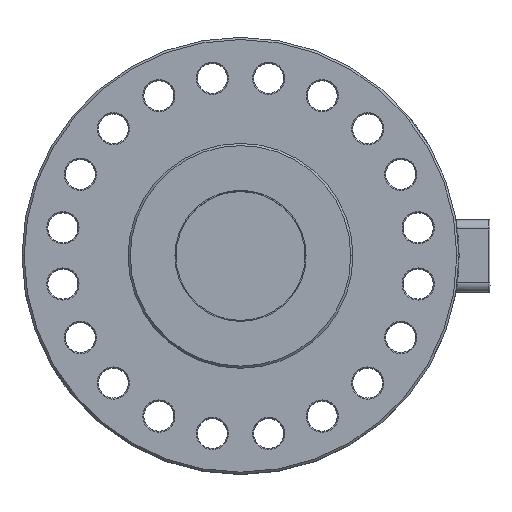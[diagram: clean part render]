
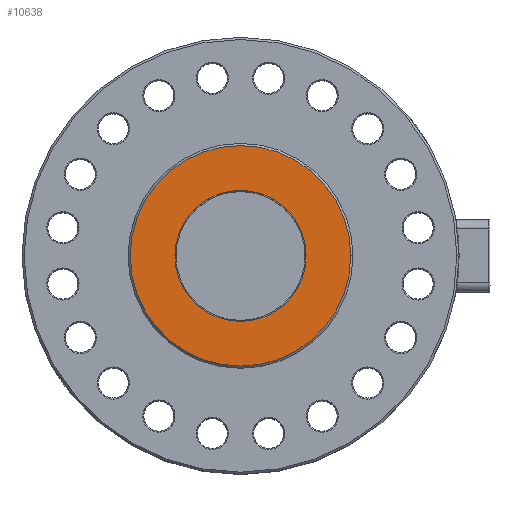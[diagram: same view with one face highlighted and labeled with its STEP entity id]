
A CAD part, top view. The second image highlights one B-rep face of the part: STEP entity #10638.
In plain terms, the highlighted planar face has unit normal (0, 0, 1).
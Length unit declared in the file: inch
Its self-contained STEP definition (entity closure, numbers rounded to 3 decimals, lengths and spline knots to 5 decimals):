
#399 = CARTESIAN_POINT ( 'NONE',  ( 0., 0., 0. ) ) ;
#437 = DIRECTION ( 'NONE',  ( 0., 0., 1. ) ) ;
#963 = CIRCLE ( 'NONE', #19289, 3.0275 ) ;
#1680 = AXIS2_PLACEMENT_3D ( 'NONE', #6330, #7847, #18267 ) ;
#1921 = DIRECTION ( 'NONE',  ( -1., 0., 0. ) ) ;
#1965 = AXIS2_PLACEMENT_3D ( 'NONE', #12240, #3300, #13712 ) ;
#2710 = EDGE_CURVE ( 'NONE', #9574, #10265, #6427, .T. ) ;
#3300 = DIRECTION ( 'NONE',  ( 0., 0., 1. ) ) ;
#3768 = ORIENTED_EDGE ( 'NONE', *, *, #2710, .F. ) ;
#4153 = FACE_BOUND ( 'NONE', #18965, .T. ) ;
#4188 = DIRECTION ( 'NONE',  ( 0., 0., 1. ) ) ;
#4271 = CIRCLE ( 'NONE', #1965, 1.8 ) ;
#4485 = CIRCLE ( 'NONE', #11792, 3.0275 ) ;
#4819 = PLANE ( 'NONE',  #1680 ) ;
#5015 = EDGE_CURVE ( 'NONE', #17936, #13594, #963, .T. ) ;
#6330 = CARTESIAN_POINT ( 'NONE',  ( 3.06383, -3.06383, 0. ) ) ;
#6427 = CIRCLE ( 'NONE', #16891, 1.8 ) ;
#6702 = CARTESIAN_POINT ( 'NONE',  ( 3.0275, 0., 0. ) ) ;
#7074 = ORIENTED_EDGE ( 'NONE', *, *, #14841, .T. ) ;
#7847 = DIRECTION ( 'NONE',  ( 0., 0., -1. ) ) ;
#9255 = ORIENTED_EDGE ( 'NONE', *, *, #5015, .T. ) ;
#9430 = CARTESIAN_POINT ( 'NONE',  ( 0., 0., 0. ) ) ;
#9574 = VERTEX_POINT ( 'NONE', #16134 ) ;
#10265 = VERTEX_POINT ( 'NONE', #10349 ) ;
#10349 = CARTESIAN_POINT ( 'NONE',  ( 1.8, 0., 0. ) ) ;
#10638 = ADVANCED_FACE ( 'NONE', ( #4153, #15578 ), #4819, .F. ) ;
#10875 = DIRECTION ( 'NONE',  ( 0., 0., 1. ) ) ;
#10905 = DIRECTION ( 'NONE',  ( -1., 0., 0. ) ) ;
#11792 = AXIS2_PLACEMENT_3D ( 'NONE', #399, #10875, #1921 ) ;
#12240 = CARTESIAN_POINT ( 'NONE',  ( 0., 0., 0. ) ) ;
#13134 = CARTESIAN_POINT ( 'NONE',  ( 0., 0., 0. ) ) ;
#13594 = VERTEX_POINT ( 'NONE', #19011 ) ;
#13712 = DIRECTION ( 'NONE',  ( -1., 0., 0. ) ) ;
#13819 = EDGE_CURVE ( 'NONE', #10265, #9574, #4271, .T. ) ;
#14609 = DIRECTION ( 'NONE',  ( -1., 0., 0. ) ) ;
#14841 = EDGE_CURVE ( 'NONE', #13594, #17936, #4485, .T. ) ;
#15065 = ORIENTED_EDGE ( 'NONE', *, *, #13819, .F. ) ;
#15578 = FACE_OUTER_BOUND ( 'NONE', #17563, .T. ) ;
#16134 = CARTESIAN_POINT ( 'NONE',  ( -1.8, 0., 0. ) ) ;
#16891 = AXIS2_PLACEMENT_3D ( 'NONE', #9430, #437, #10905 ) ;
#17563 = EDGE_LOOP ( 'NONE', ( #7074, #9255 ) ) ;
#17936 = VERTEX_POINT ( 'NONE', #6702 ) ;
#18267 = DIRECTION ( 'NONE',  ( -1., 0., 0. ) ) ;
#18965 = EDGE_LOOP ( 'NONE', ( #3768, #15065 ) ) ;
#19011 = CARTESIAN_POINT ( 'NONE',  ( -3.0275, 0., 0. ) ) ;
#19289 = AXIS2_PLACEMENT_3D ( 'NONE', #13134, #4188, #14609 ) ;
